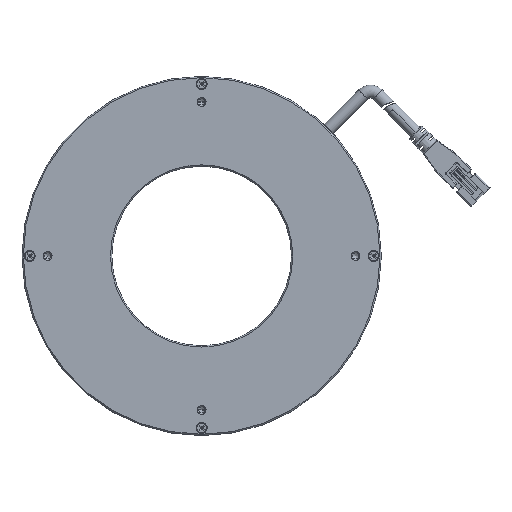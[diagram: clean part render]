
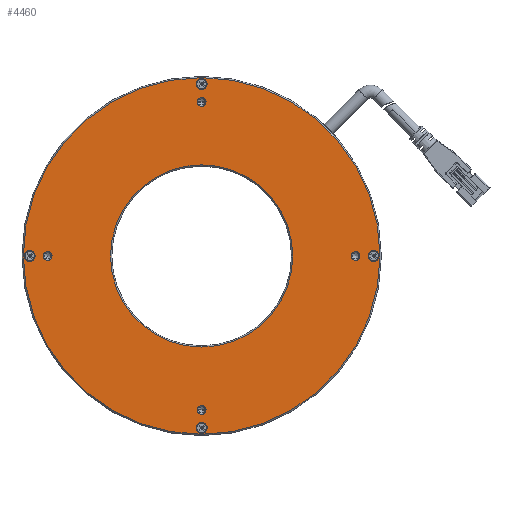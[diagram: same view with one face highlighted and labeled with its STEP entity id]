
A CAD part, top view. The second image highlights one B-rep face of the part: STEP entity #4460.
In plain terms, the highlighted planar face has unit normal (0, 0, 1).
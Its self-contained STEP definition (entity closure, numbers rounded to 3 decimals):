
#509=CARTESIAN_POINT('',(0.,-67.,2.));
#510=DIRECTION('',(0.,0.,-1.));
#511=DIRECTION('',(0.,1.,0.));
#512=AXIS2_PLACEMENT_3D('',#509,#510,#511);
#514=CARTESIAN_POINT('',(0.,-67.,2.));
#515=DIRECTION('',(0.,0.,-1.));
#516=DIRECTION('',(0.,-1.,0.));
#517=AXIS2_PLACEMENT_3D('',#514,#515,#516);
#519=CARTESIAN_POINT('',(0.,0.,2.));
#520=DIRECTION('',(0.,0.,-1.));
#521=DIRECTION('',(1.,0.,0.));
#522=AXIS2_PLACEMENT_3D('',#519,#520,#521);
#524=CARTESIAN_POINT('',(0.,0.,2.));
#525=DIRECTION('',(0.,0.,-1.));
#526=DIRECTION('',(-1.,0.,0.));
#527=AXIS2_PLACEMENT_3D('',#524,#525,#526);
#529=CARTESIAN_POINT('',(0.,60.,2.));
#530=DIRECTION('',(0.,0.,-1.));
#531=DIRECTION('',(-1.,0.,0.));
#532=AXIS2_PLACEMENT_3D('',#529,#530,#531);
#534=CARTESIAN_POINT('',(0.,60.,2.));
#535=DIRECTION('',(0.,0.,-1.));
#536=DIRECTION('',(1.,0.,0.));
#537=AXIS2_PLACEMENT_3D('',#534,#535,#536);
#539=CARTESIAN_POINT('',(-60.,0.,2.));
#540=DIRECTION('',(0.,0.,-1.));
#541=DIRECTION('',(0.,-1.,0.));
#542=AXIS2_PLACEMENT_3D('',#539,#540,#541);
#544=CARTESIAN_POINT('',(-60.,0.,2.));
#545=DIRECTION('',(0.,0.,-1.));
#546=DIRECTION('',(0.,1.,0.));
#547=AXIS2_PLACEMENT_3D('',#544,#545,#546);
#549=CARTESIAN_POINT('',(0.,-60.,2.));
#550=DIRECTION('',(0.,0.,-1.));
#551=DIRECTION('',(1.,0.,0.));
#552=AXIS2_PLACEMENT_3D('',#549,#550,#551);
#554=CARTESIAN_POINT('',(0.,-60.,2.));
#555=DIRECTION('',(0.,0.,-1.));
#556=DIRECTION('',(-1.,0.,0.));
#557=AXIS2_PLACEMENT_3D('',#554,#555,#556);
#559=CARTESIAN_POINT('',(60.,0.,2.));
#560=DIRECTION('',(0.,0.,-1.));
#561=DIRECTION('',(0.,1.,0.));
#562=AXIS2_PLACEMENT_3D('',#559,#560,#561);
#564=CARTESIAN_POINT('',(60.,0.,2.));
#565=DIRECTION('',(0.,0.,-1.));
#566=DIRECTION('',(0.,-1.,0.));
#567=AXIS2_PLACEMENT_3D('',#564,#565,#566);
#569=CARTESIAN_POINT('',(67.,0.,2.));
#570=DIRECTION('',(0.,0.,-1.));
#571=DIRECTION('',(-1.,0.,0.));
#572=AXIS2_PLACEMENT_3D('',#569,#570,#571);
#574=CARTESIAN_POINT('',(67.,0.,2.));
#575=DIRECTION('',(0.,0.,-1.));
#576=DIRECTION('',(1.,0.,0.));
#577=AXIS2_PLACEMENT_3D('',#574,#575,#576);
#579=CARTESIAN_POINT('',(0.,67.,2.));
#580=DIRECTION('',(0.,0.,-1.));
#581=DIRECTION('',(0.,-1.,0.));
#582=AXIS2_PLACEMENT_3D('',#579,#580,#581);
#584=CARTESIAN_POINT('',(0.,67.,2.));
#585=DIRECTION('',(0.,0.,-1.));
#586=DIRECTION('',(0.,1.,0.));
#587=AXIS2_PLACEMENT_3D('',#584,#585,#586);
#589=CARTESIAN_POINT('',(-67.,0.,2.));
#590=DIRECTION('',(0.,0.,-1.));
#591=DIRECTION('',(1.,0.,0.));
#592=AXIS2_PLACEMENT_3D('',#589,#590,#591);
#594=CARTESIAN_POINT('',(-67.,0.,2.));
#595=DIRECTION('',(0.,0.,-1.));
#596=DIRECTION('',(-1.,0.,0.));
#597=AXIS2_PLACEMENT_3D('',#594,#595,#596);
#599=CARTESIAN_POINT('',(0.,0.,2.));
#600=DIRECTION('',(0.,0.,1.));
#601=DIRECTION('',(-1.,0.,0.));
#602=AXIS2_PLACEMENT_3D('',#599,#600,#601);
#604=CARTESIAN_POINT('',(0.,0.,2.));
#605=DIRECTION('',(0.,0.,1.));
#606=DIRECTION('',(1.,0.,0.));
#607=AXIS2_PLACEMENT_3D('',#604,#605,#606);
#3157=CARTESIAN_POINT('',(69.5,0.,2.));
#3158=CARTESIAN_POINT('',(-69.5,0.,2.));
#3159=VERTEX_POINT('',#3157);
#3160=VERTEX_POINT('',#3158);
#3161=CARTESIAN_POINT('',(-69.15,0.,2.));
#3162=CARTESIAN_POINT('',(-64.85,0.,2.));
#3163=VERTEX_POINT('',#3161);
#3164=VERTEX_POINT('',#3162);
#3165=CARTESIAN_POINT('',(0.,69.15,2.));
#3166=CARTESIAN_POINT('',(0.,64.85,2.));
#3167=VERTEX_POINT('',#3165);
#3168=VERTEX_POINT('',#3166);
#3169=CARTESIAN_POINT('',(69.15,0.,2.));
#3170=CARTESIAN_POINT('',(64.85,0.,2.));
#3171=VERTEX_POINT('',#3169);
#3172=VERTEX_POINT('',#3170);
#3173=CARTESIAN_POINT('',(60.,-1.7,2.));
#3174=CARTESIAN_POINT('',(60.,1.7,2.));
#3175=VERTEX_POINT('',#3173);
#3176=VERTEX_POINT('',#3174);
#3177=CARTESIAN_POINT('',(-1.7,-60.,2.));
#3178=CARTESIAN_POINT('',(1.7,-60.,2.));
#3179=VERTEX_POINT('',#3177);
#3180=VERTEX_POINT('',#3178);
#3181=CARTESIAN_POINT('',(-60.,1.7,2.));
#3182=CARTESIAN_POINT('',(-60.,-1.7,2.));
#3183=VERTEX_POINT('',#3181);
#3184=VERTEX_POINT('',#3182);
#3185=CARTESIAN_POINT('',(1.7,60.,2.));
#3186=CARTESIAN_POINT('',(-1.7,60.,2.));
#3187=VERTEX_POINT('',#3185);
#3188=VERTEX_POINT('',#3186);
#3189=CARTESIAN_POINT('',(-35.5,0.,2.));
#3190=CARTESIAN_POINT('',(35.5,0.,2.));
#3191=VERTEX_POINT('',#3189);
#3192=VERTEX_POINT('',#3190);
#3193=CARTESIAN_POINT('',(0.,-69.15,2.));
#3194=CARTESIAN_POINT('',(0.,-64.85,2.));
#3195=VERTEX_POINT('',#3193);
#3196=VERTEX_POINT('',#3194);
#4397=CARTESIAN_POINT('',(0.,0.,2.));
#4398=DIRECTION('',(0.,0.,-1.));
#4399=DIRECTION('',(-1.,0.,0.));
#4400=AXIS2_PLACEMENT_3D('',#4397,#4398,#4399);
#4401=PLANE('',#4400);
#4403=ORIENTED_EDGE('',*,*,#4402,.F.);
#4405=ORIENTED_EDGE('',*,*,#4404,.F.);
#4406=EDGE_LOOP('',(#4403,#4405));
#4407=FACE_OUTER_BOUND('',#4406,.F.);
#4409=ORIENTED_EDGE('',*,*,#4408,.F.);
#4411=ORIENTED_EDGE('',*,*,#4410,.F.);
#4412=EDGE_LOOP('',(#4409,#4411));
#4413=FACE_BOUND('',#4412,.F.);
#4415=ORIENTED_EDGE('',*,*,#4414,.F.);
#4417=ORIENTED_EDGE('',*,*,#4416,.F.);
#4418=EDGE_LOOP('',(#4415,#4417));
#4419=FACE_BOUND('',#4418,.F.);
#4421=ORIENTED_EDGE('',*,*,#4420,.F.);
#4423=ORIENTED_EDGE('',*,*,#4422,.F.);
#4424=EDGE_LOOP('',(#4421,#4423));
#4425=FACE_BOUND('',#4424,.F.);
#4427=ORIENTED_EDGE('',*,*,#4426,.F.);
#4429=ORIENTED_EDGE('',*,*,#4428,.F.);
#4430=EDGE_LOOP('',(#4427,#4429));
#4431=FACE_BOUND('',#4430,.F.);
#4433=ORIENTED_EDGE('',*,*,#4432,.F.);
#4435=ORIENTED_EDGE('',*,*,#4434,.F.);
#4436=EDGE_LOOP('',(#4433,#4435));
#4437=FACE_BOUND('',#4436,.F.);
#4439=ORIENTED_EDGE('',*,*,#4438,.F.);
#4441=ORIENTED_EDGE('',*,*,#4440,.F.);
#4442=EDGE_LOOP('',(#4439,#4441));
#4443=FACE_BOUND('',#4442,.F.);
#4444=ORIENTED_EDGE('',*,*,#4346,.F.);
#4445=ORIENTED_EDGE('',*,*,#4371,.F.);
#4446=EDGE_LOOP('',(#4444,#4445));
#4447=FACE_BOUND('',#4446,.F.);
#4449=ORIENTED_EDGE('',*,*,#4448,.F.);
#4451=ORIENTED_EDGE('',*,*,#4450,.F.);
#4452=EDGE_LOOP('',(#4449,#4451));
#4453=FACE_BOUND('',#4452,.F.);
#4455=ORIENTED_EDGE('',*,*,#4454,.F.);
#4457=ORIENTED_EDGE('',*,*,#4456,.F.);
#4458=EDGE_LOOP('',(#4455,#4457));
#4459=FACE_BOUND('',#4458,.F.);
#4460=ADVANCED_FACE('',(#4407,#4413,#4419,#4425,#4431,#4437,#4443,#4447,#4453,
#4459),#4401,.F.);
#513=CIRCLE('',#512,2.15);
#518=CIRCLE('',#517,2.15);
#523=CIRCLE('',#522,35.5);
#528=CIRCLE('',#527,35.5);
#533=CIRCLE('',#532,1.7);
#538=CIRCLE('',#537,1.7);
#543=CIRCLE('',#542,1.7);
#548=CIRCLE('',#547,1.7);
#553=CIRCLE('',#552,1.7);
#558=CIRCLE('',#557,1.7);
#563=CIRCLE('',#562,1.7);
#568=CIRCLE('',#567,1.7);
#573=CIRCLE('',#572,2.15);
#578=CIRCLE('',#577,2.15);
#583=CIRCLE('',#582,2.15);
#588=CIRCLE('',#587,2.15);
#593=CIRCLE('',#592,2.15);
#598=CIRCLE('',#597,2.15);
#603=CIRCLE('',#602,69.5);
#608=CIRCLE('',#607,69.5);
#4346=EDGE_CURVE('',#3168,#3167,#583,.T.);
#4371=EDGE_CURVE('',#3167,#3168,#588,.T.);
#4402=EDGE_CURVE('',#3160,#3159,#603,.T.);
#4404=EDGE_CURVE('',#3159,#3160,#608,.T.);
#4408=EDGE_CURVE('',#3192,#3191,#523,.T.);
#4410=EDGE_CURVE('',#3191,#3192,#528,.T.);
#4414=EDGE_CURVE('',#3188,#3187,#533,.T.);
#4416=EDGE_CURVE('',#3187,#3188,#538,.T.);
#4420=EDGE_CURVE('',#3184,#3183,#543,.T.);
#4422=EDGE_CURVE('',#3183,#3184,#548,.T.);
#4426=EDGE_CURVE('',#3180,#3179,#553,.T.);
#4428=EDGE_CURVE('',#3179,#3180,#558,.T.);
#4432=EDGE_CURVE('',#3176,#3175,#563,.T.);
#4434=EDGE_CURVE('',#3175,#3176,#568,.T.);
#4438=EDGE_CURVE('',#3172,#3171,#573,.T.);
#4440=EDGE_CURVE('',#3171,#3172,#578,.T.);
#4448=EDGE_CURVE('',#3164,#3163,#593,.T.);
#4450=EDGE_CURVE('',#3163,#3164,#598,.T.);
#4454=EDGE_CURVE('',#3196,#3195,#513,.T.);
#4456=EDGE_CURVE('',#3195,#3196,#518,.T.);
